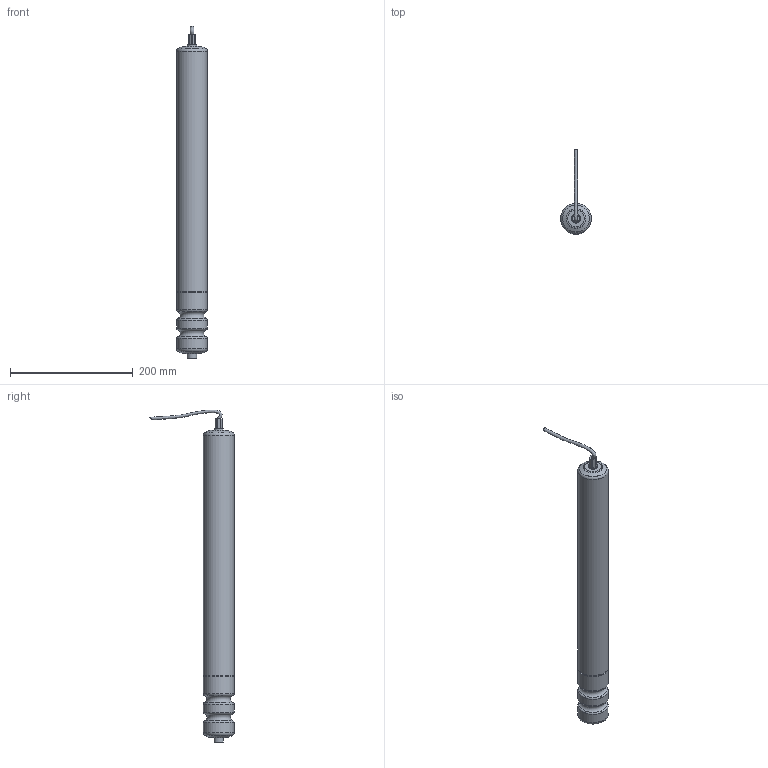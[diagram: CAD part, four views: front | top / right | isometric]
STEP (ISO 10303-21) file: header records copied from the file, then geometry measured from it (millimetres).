
FILE_DESCRIPTION(/* description */ ('Motorrol EC310 i=24'),/* implementation_level */ '2;1');
FILE_NAME(/* name */ 'EM8300050510-01.stp',/* time_stamp */ '2024-03-13T15:25:20+01:00',/* author */ ('rdegreef'),/* organization */ ('BCK Holland b.v.'),/* preprocessor_version */ 'ST-DEVELOPER v19.2',/* originating_system */ 'Autodesk Inventor 2023',/* authorisation */ '');
FILE_SCHEMA (('AUTOMOTIVE_DESIGN { 1 0 10303 214 3 1 1 }'));
Length unit declared in the file: millimetre
Products named in the file (1): EM8300050510
Bounding box: 50 x 137.12 x 540.91 mm (x, y, z)
Volume: 85056.4 mm3; surface area: 164004.4 mm2
Topology: 1 solids, 2 shells, 69 faces, 149 edges, 94 vertices
Faces by surface type: cylinder 22, plane 20, torus 20, cone 6, bspline 1
Full cylindrical faces by diameter (mm): 6.647 x1, 8.647 x1, 13 x2, 15 x2, 47.5 x1, 48 x4, 49.5 x1, 50 x4
Entity records: 2887 total; most frequent: CARTESIAN_POINT 1161, DIRECTION 384, ORIENTED_EDGE 294, AXIS2_PLACEMENT_3D 169, EDGE_CURVE 147, CIRCLE 100, VERTEX_POINT 94, EDGE_LOOP 81
